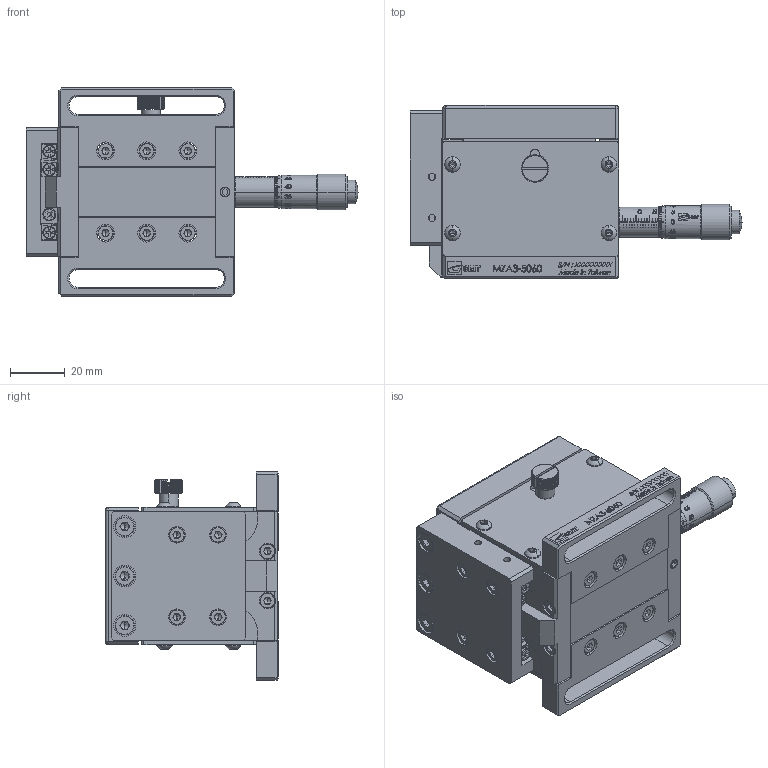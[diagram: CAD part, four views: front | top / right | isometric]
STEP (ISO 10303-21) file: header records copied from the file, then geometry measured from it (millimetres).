
FILE_DESCRIPTION (( 'STEP AP203' ), '1' );
FILE_NAME ('MZA3-5060.STEP', '2011-01-13T01:55:03', ( 'user' ), ( '' ), 'SwSTEP 2.0', 'SolidWorks 2007', '' );
FILE_SCHEMA (( 'CONFIG_CONTROL_DESIGN' ));
Length unit declared in the file: millimetre
Products named in the file (1): MZA3-5060
Bounding box: 121 x 63 x 76 mm (x, y, z)
Surface area: 43687.6 mm2 (no closed solid volume)
Topology: 0 solids, 94 shells, 1022 faces, 4752 edges, 3642 vertices
Faces by surface type: plane 552, cylinder 221, cone 122, bspline 61, torus 48, sphere 18
Entity records: 58962 total; most frequent: CARTESIAN_POINT 23350, DIRECTION 6820, ORIENTED_EDGE 6498, EDGE_CURVE 4702, VERTEX_POINT 3642, VECTOR 2450, LINE 2450, AXIS2_PLACEMENT_3D 2185
